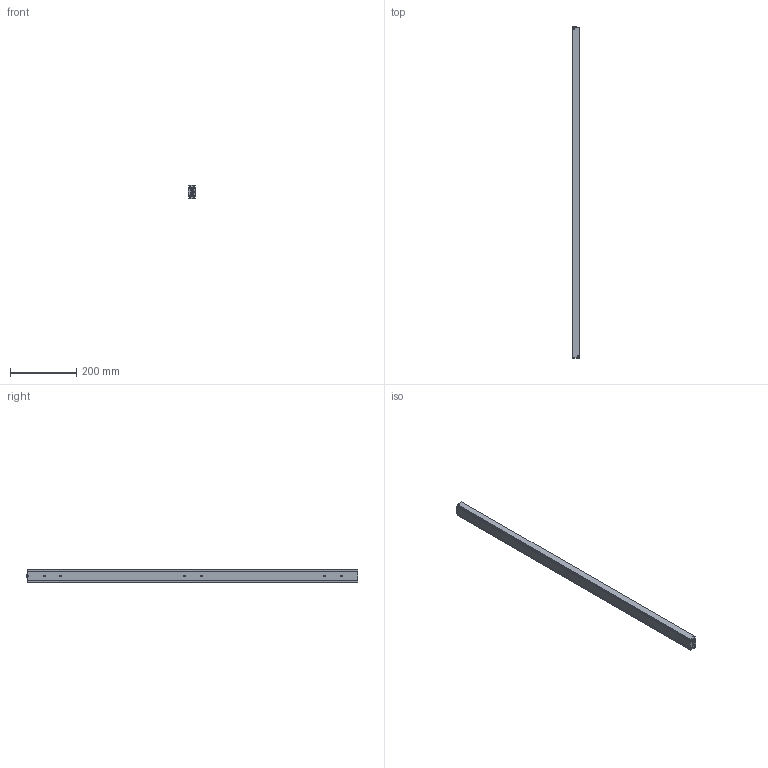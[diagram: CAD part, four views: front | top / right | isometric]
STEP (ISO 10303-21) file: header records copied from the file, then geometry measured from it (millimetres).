
FILE_DESCRIPTION(/* description */ (''),/* implementation_level */ '2;1');
FILE_NAME(/* name */ 'C:\Users\Miluxor\Desktop\Miluxor Schienen\Original Zeichnungen\Zeichnungen Schienen Komplett\MX-DTP40\MX-DTP40.100\MX-DTP40.100_eingefahren.stp',/* time_stamp */ '2019-05-13T10:15:49+02:00',/* author */ ('Miluxor'),/* organization */ (''),/* preprocessor_version */ 'ST-DEVELOPER v16.13',/* originating_system */ 'AutoCAD Mechanical',/* authorisation */ '');
FILE_SCHEMA (('AUTOMOTIVE_DESIGN { 1 0 10303 214 3 1 1 }'));
Products named in the file (1): Product
Bounding box: 24 x 1005 x 40.5 mm (x, y, z)
Volume: 749232.6 mm3; surface area: 359628.1 mm2
Topology: 95 solids, 95 shells, 618 faces, 1580 edges, 1048 vertices
Faces by surface type: plane 392, cylinder 88, bspline 68, sphere 56, cone 8, torus 6
Full cylindrical faces by diameter (mm): 4 x2, 6 x68, 10 x2
Entity records: 55147 total; most frequent: CARTESIAN_POINT 41077, ORIENTED_EDGE 2744, DIRECTION 2556, EDGE_CURVE 1372, VERTEX_POINT 1038, LINE 930, VECTOR 930, EDGE_LOOP 848
